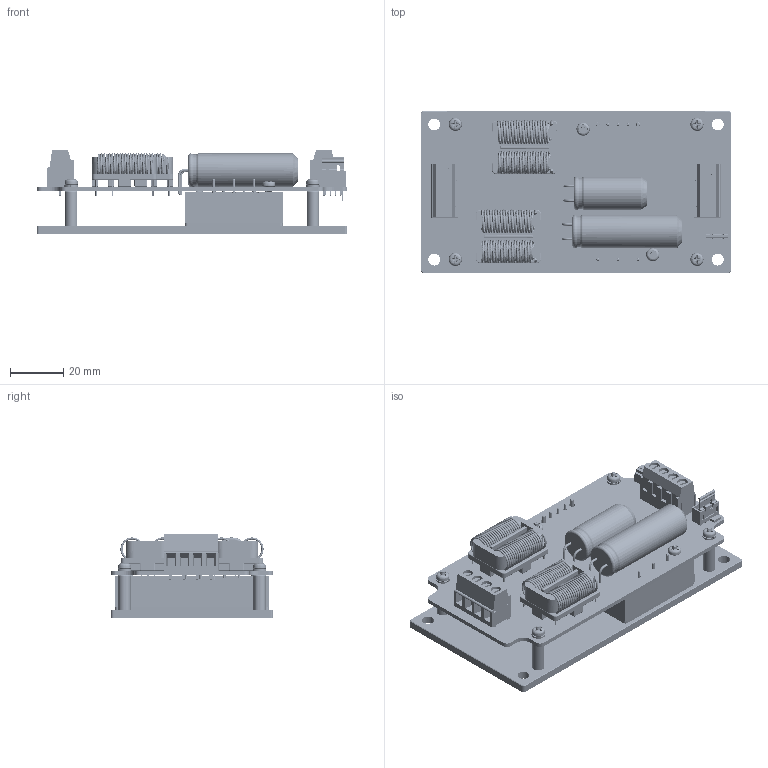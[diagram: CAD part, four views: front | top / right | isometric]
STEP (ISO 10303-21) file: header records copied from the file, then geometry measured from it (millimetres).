
FILE_DESCRIPTION (( 'STEP AP203' ), '1' );
FILE_NAME ('CQB50W12 CMFC 2025.01.02.STEP', '2025-01-03T09:24:55', ( '' ), ( '' ), 'SwSTEP 2.0', 'SolidWorks 2020', '' );
FILE_SCHEMA (( 'CONFIG_CONTROL_DESIGN' ));
Products named in the file (1): CQB50W12 CMFC 2025.01.02
Bounding box: 116.84 x 60.96 x 31.5 mm (x, y, z)
Volume: 79829.3 mm3; surface area: 55521.2 mm2
Topology: 15 solids, 15 shells, 2240 faces, 6918 edges, 4345 vertices
Faces by surface type: plane 1391, bspline 349, cylinder 313, cone 111, torus 42, sphere 34
Full cylindrical faces by diameter (mm): 0.5 x16, 0.942 x8, 1.02 x6, 1.2 x6, 1.5 x2, 2.2 x2, 3.2 x5, 3.25 x1, 3.5 x4, 3.8 x8, 4 x10, 4.3 x2, 4.5 x6, 4.7 x8, 5 x4, 8.635 x2, 8.762 x1, 11.775 x2, 12.56 x2
Entity records: 330953 total; most frequent: CARTESIAN_POINT 275507, ORIENTED_EDGE 12738, DIRECTION 9171, EDGE_CURVE 6369, VERTEX_POINT 4244, VECTOR 3873, LINE 3873, EDGE_LOOP 2929
